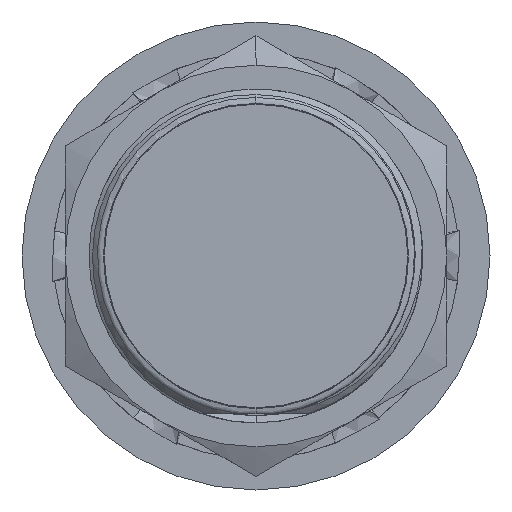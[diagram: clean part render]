
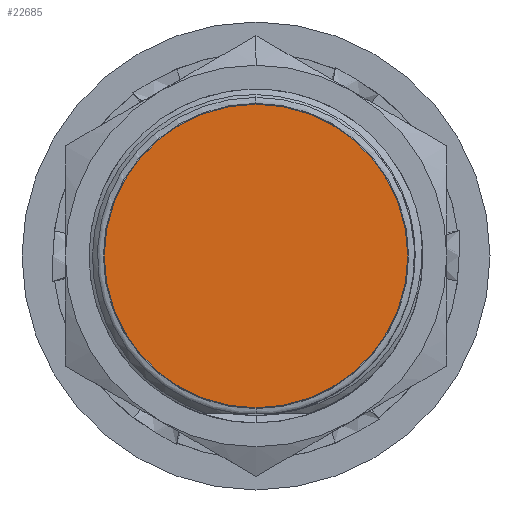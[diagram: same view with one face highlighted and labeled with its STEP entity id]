
A CAD part, front view. The second image highlights one B-rep face of the part: STEP entity #22685.
In plain terms, the highlighted planar face has unit normal (0, -1, 0) as drawn and (0, 0, 1) by its records, which use the part's own axes.
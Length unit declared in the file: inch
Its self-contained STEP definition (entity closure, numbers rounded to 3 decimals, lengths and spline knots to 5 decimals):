
#134 = VERTEX_POINT ( 'NONE', #35413 ) ;
#839 = DIRECTION ( 'NONE',  ( 1., 0., 0. ) ) ;
#1559 = EDGE_LOOP ( 'NONE', ( #30398, #40693 ) ) ;
#6153 = DIRECTION ( 'NONE',  ( 0., 0., 1. ) ) ;
#6458 = DIRECTION ( 'NONE',  ( 0., 0., 1. ) ) ;
#9755 = VERTEX_POINT ( 'NONE', #39116 ) ;
#10981 = AXIS2_PLACEMENT_3D ( 'NONE', #57386, #29188, #839 ) ;
#11012 = PLANE ( 'NONE',  #35128 ) ;
#22685 = ADVANCED_FACE ( 'NONE', ( #32092 ), #11012, .T. ) ;
#28416 = CIRCLE ( 'NONE', #57302, 0.4475 ) ;
#29188 = DIRECTION ( 'NONE',  ( 0., 0., 1. ) ) ;
#30398 = ORIENTED_EDGE ( 'NONE', *, *, #41887, .T. ) ;
#32092 = FACE_OUTER_BOUND ( 'NONE', #1559, .T. ) ;
#34485 = CARTESIAN_POINT ( 'NONE',  ( 0., 0., 0.07874 ) ) ;
#34795 = CARTESIAN_POINT ( 'NONE',  ( 0., 0., 0.07874 ) ) ;
#35128 = AXIS2_PLACEMENT_3D ( 'NONE', #34795, #6458, #39558 ) ;
#35413 = CARTESIAN_POINT ( 'NONE',  ( 0.4475, 0., 0.07874 ) ) ;
#36926 = CIRCLE ( 'NONE', #10981, 0.4475 ) ;
#39116 = CARTESIAN_POINT ( 'NONE',  ( -0.4475, 0., 0.07874 ) ) ;
#39234 = DIRECTION ( 'NONE',  ( 1., 0., 0. ) ) ;
#39558 = DIRECTION ( 'NONE',  ( 1., 0., 0. ) ) ;
#40693 = ORIENTED_EDGE ( 'NONE', *, *, #46736, .T. ) ;
#41887 = EDGE_CURVE ( 'NONE', #9755, #134, #28416, .T. ) ;
#46736 = EDGE_CURVE ( 'NONE', #134, #9755, #36926, .T. ) ;
#57302 = AXIS2_PLACEMENT_3D ( 'NONE', #34485, #6153, #39234 ) ;
#57386 = CARTESIAN_POINT ( 'NONE',  ( 0., 0., 0.07874 ) ) ;
